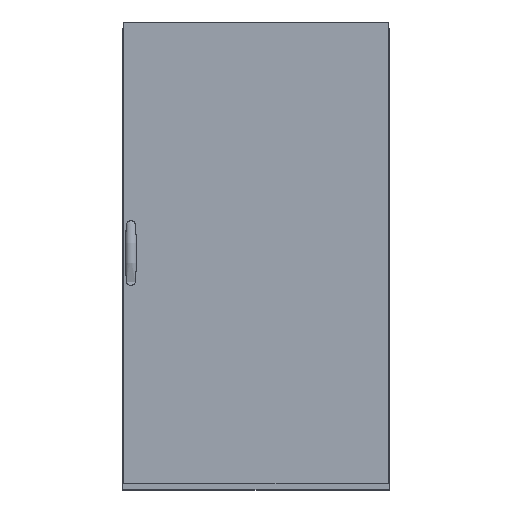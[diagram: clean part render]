
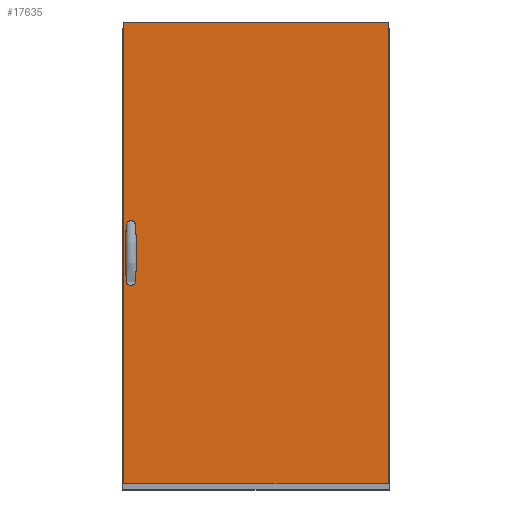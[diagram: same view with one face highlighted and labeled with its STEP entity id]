
A CAD part, top view. The second image highlights one B-rep face of the part: STEP entity #17635.
In plain terms, the highlighted planar face has unit normal (0, 0, 1) as drawn and (0, 0, -1) by its records, which use the part's own axes.
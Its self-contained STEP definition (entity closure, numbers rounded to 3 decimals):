
#275=CIRCLE('',#19622,2.6);
#276=CIRCLE('',#19623,2.6);
#2351=ORIENTED_EDGE('',*,*,#6413,.T.);
#2352=ORIENTED_EDGE('',*,*,#6414,.T.);
#2353=ORIENTED_EDGE('',*,*,#6415,.T.);
#2354=ORIENTED_EDGE('',*,*,#6416,.T.);
#2355=ORIENTED_EDGE('',*,*,#6417,.T.);
#2356=ORIENTED_EDGE('',*,*,#6418,.T.);
#2357=ORIENTED_EDGE('',*,*,#6419,.T.);
#2358=ORIENTED_EDGE('',*,*,#6420,.T.);
#2359=ORIENTED_EDGE('',*,*,#6421,.T.);
#2360=ORIENTED_EDGE('',*,*,#6422,.T.);
#2361=ORIENTED_EDGE('',*,*,#6423,.T.);
#2362=ORIENTED_EDGE('',*,*,#6424,.T.);
#2363=ORIENTED_EDGE('',*,*,#6425,.T.);
#2364=ORIENTED_EDGE('',*,*,#6426,.T.);
#2365=ORIENTED_EDGE('',*,*,#6427,.T.);
#2366=ORIENTED_EDGE('',*,*,#6428,.T.);
#2367=ORIENTED_EDGE('',*,*,#6429,.T.);
#2368=ORIENTED_EDGE('',*,*,#6430,.F.);
#2369=ORIENTED_EDGE('',*,*,#6431,.F.);
#2370=ORIENTED_EDGE('',*,*,#6432,.T.);
#2371=ORIENTED_EDGE('',*,*,#6433,.T.);
#2372=ORIENTED_EDGE('',*,*,#6434,.T.);
#6413=EDGE_CURVE('',#8598,#8599,#10440,.T.);
#6414=EDGE_CURVE('',#8599,#8600,#10441,.T.);
#6415=EDGE_CURVE('',#8600,#8601,#10442,.T.);
#6416=EDGE_CURVE('',#8601,#8602,#10443,.T.);
#6417=EDGE_CURVE('',#8602,#8603,#10444,.T.);
#6418=EDGE_CURVE('',#8603,#8604,#10445,.T.);
#6419=EDGE_CURVE('',#8604,#8605,#10446,.T.);
#6420=EDGE_CURVE('',#8605,#8606,#10447,.T.);
#6421=EDGE_CURVE('',#8606,#8607,#10448,.T.);
#6422=EDGE_CURVE('',#8607,#8608,#10449,.T.);
#6423=EDGE_CURVE('',#8608,#8609,#10450,.T.);
#6424=EDGE_CURVE('',#8609,#8610,#10451,.T.);
#6425=EDGE_CURVE('',#8610,#8611,#10452,.T.);
#6426=EDGE_CURVE('',#8611,#8612,#10453,.T.);
#6427=EDGE_CURVE('',#8612,#8613,#10454,.T.);
#6428=EDGE_CURVE('',#8613,#8598,#10455,.T.);
#6429=EDGE_CURVE('',#8614,#8615,#10456,.T.);
#6430=EDGE_CURVE('',#8616,#8615,#10457,.T.);
#6431=EDGE_CURVE('',#8617,#8616,#10458,.T.);
#6432=EDGE_CURVE('',#8617,#8614,#10459,.T.);
#6433=EDGE_CURVE('',#8618,#8618,#275,.T.);
#6434=EDGE_CURVE('',#8619,#8619,#276,.T.);
#8598=VERTEX_POINT('',#27115);
#8599=VERTEX_POINT('',#27116);
#8600=VERTEX_POINT('',#27118);
#8601=VERTEX_POINT('',#27120);
#8602=VERTEX_POINT('',#27122);
#8603=VERTEX_POINT('',#27124);
#8604=VERTEX_POINT('',#27126);
#8605=VERTEX_POINT('',#27128);
#8606=VERTEX_POINT('',#27130);
#8607=VERTEX_POINT('',#27132);
#8608=VERTEX_POINT('',#27134);
#8609=VERTEX_POINT('',#27136);
#8610=VERTEX_POINT('',#27138);
#8611=VERTEX_POINT('',#27140);
#8612=VERTEX_POINT('',#27142);
#8613=VERTEX_POINT('',#27144);
#8614=VERTEX_POINT('',#27147);
#8615=VERTEX_POINT('',#27148);
#8616=VERTEX_POINT('',#27150);
#8617=VERTEX_POINT('',#27152);
#8618=VERTEX_POINT('',#27155);
#8619=VERTEX_POINT('',#27157);
#10440=LINE('',#27114,#12620);
#10441=LINE('',#27117,#12621);
#10442=LINE('',#27119,#12622);
#10443=LINE('',#27121,#12623);
#10444=LINE('',#27123,#12624);
#10445=LINE('',#27125,#12625);
#10446=LINE('',#27127,#12626);
#10447=LINE('',#27129,#12627);
#10448=LINE('',#27131,#12628);
#10449=LINE('',#27133,#12629);
#10450=LINE('',#27135,#12630);
#10451=LINE('',#27137,#12631);
#10452=LINE('',#27139,#12632);
#10453=LINE('',#27141,#12633);
#10454=LINE('',#27143,#12634);
#10455=LINE('',#27145,#12635);
#10456=LINE('',#27146,#12636);
#10457=LINE('',#27149,#12637);
#10458=LINE('',#27151,#12638);
#10459=LINE('',#27153,#12639);
#12620=VECTOR('',#22164,1000.);
#12621=VECTOR('',#22165,1000.);
#12622=VECTOR('',#22166,1000.);
#12623=VECTOR('',#22167,1000.);
#12624=VECTOR('',#22168,1000.);
#12625=VECTOR('',#22169,1000.);
#12626=VECTOR('',#22170,1000.);
#12627=VECTOR('',#22171,1000.);
#12628=VECTOR('',#22172,1000.);
#12629=VECTOR('',#22173,1000.);
#12630=VECTOR('',#22174,1000.);
#12631=VECTOR('',#22175,1000.);
#12632=VECTOR('',#22176,1000.);
#12633=VECTOR('',#22177,1000.);
#12634=VECTOR('',#22178,1000.);
#12635=VECTOR('',#22179,1000.);
#12636=VECTOR('',#22180,1000.);
#12637=VECTOR('',#22181,1000.);
#12638=VECTOR('',#22182,1000.);
#12639=VECTOR('',#22183,1000.);
#14513=EDGE_LOOP('',(#2351,#2352,#2353,#2354,#2355,#2356,#2357,#2358,#2359,
#2360,#2361,#2362,#2363,#2364,#2365,#2366));
#14514=EDGE_LOOP('',(#2367,#2368,#2369,#2370));
#14515=EDGE_LOOP('',(#2371));
#14516=EDGE_LOOP('',(#2372));
#15711=FACE_BOUND('',#14513,.T.);
#15712=FACE_BOUND('',#14514,.T.);
#15713=FACE_BOUND('',#14515,.T.);
#15714=FACE_BOUND('',#14516,.T.);
#16739=PLANE('',#19621);
#17635=ADVANCED_FACE('',(#15711,#15712,#15713,#15714),#16739,.F.);
#19621=AXIS2_PLACEMENT_3D('',#27113,#22162,#22163);
#19622=AXIS2_PLACEMENT_3D('',#27154,#22184,#22185);
#19623=AXIS2_PLACEMENT_3D('',#27156,#22186,#22187);
#22162=DIRECTION('',(0.,0.,1.));
#22163=DIRECTION('',(1.,0.,0.));
#22164=DIRECTION('',(0.,-1.,0.));
#22165=DIRECTION('',(0.342,-0.94,0.));
#22166=DIRECTION('',(1.,0.,0.));
#22167=DIRECTION('',(0.,1.,0.));
#22168=DIRECTION('',(1.,0.,0.));
#22169=DIRECTION('',(0.,-1.,0.));
#22170=DIRECTION('',(1.,0.,0.));
#22171=DIRECTION('',(0.342,0.94,0.));
#22172=DIRECTION('',(0.,1.,0.));
#22173=DIRECTION('',(-0.342,0.94,0.));
#22174=DIRECTION('',(-1.,0.,0.));
#22175=DIRECTION('',(0.,-1.,0.));
#22176=DIRECTION('',(-1.,0.,0.));
#22177=DIRECTION('',(0.,1.,0.));
#22178=DIRECTION('',(-1.,0.,0.));
#22179=DIRECTION('',(-0.342,-0.94,0.));
#22180=DIRECTION('',(-1.,0.,0.));
#22181=DIRECTION('',(0.,-1.,0.));
#22182=DIRECTION('',(-1.,0.,0.));
#22183=DIRECTION('',(0.,-1.,0.));
#22184=DIRECTION('',(0.,0.,1.));
#22185=DIRECTION('',(1.,0.,0.));
#22186=DIRECTION('',(0.,0.,1.));
#22187=DIRECTION('',(1.,0.,0.));
#27113=CARTESIAN_POINT('',(396.5,1382.,-16.8));
#27114=CARTESIAN_POINT('',(362.95,756.256,-16.8));
#27115=CARTESIAN_POINT('',(362.95,756.256,-16.8));
#27116=CARTESIAN_POINT('',(362.95,625.744,-16.8));
#27117=CARTESIAN_POINT('',(362.95,625.744,-16.8));
#27118=CARTESIAN_POINT('',(364.95,620.25,-16.8));
#27119=CARTESIAN_POINT('',(364.95,620.25,-16.8));
#27120=CARTESIAN_POINT('',(370.2,620.25,-16.8));
#27121=CARTESIAN_POINT('',(370.2,620.25,-16.8));
#27122=CARTESIAN_POINT('',(370.2,628.,-16.8));
#27123=CARTESIAN_POINT('',(370.2,628.,-16.8));
#27124=CARTESIAN_POINT('',(381.2,628.,-16.8));
#27125=CARTESIAN_POINT('',(381.2,628.,-16.8));
#27126=CARTESIAN_POINT('',(381.2,620.25,-16.8));
#27127=CARTESIAN_POINT('',(381.2,620.25,-16.8));
#27128=CARTESIAN_POINT('',(386.45,620.25,-16.8));
#27129=CARTESIAN_POINT('',(386.45,620.25,-16.8));
#27130=CARTESIAN_POINT('',(388.45,625.744,-16.8));
#27131=CARTESIAN_POINT('',(388.45,625.744,-16.8));
#27132=CARTESIAN_POINT('',(388.45,756.256,-16.8));
#27133=CARTESIAN_POINT('',(388.45,756.256,-16.8));
#27134=CARTESIAN_POINT('',(386.45,761.75,-16.8));
#27135=CARTESIAN_POINT('',(386.45,761.75,-16.8));
#27136=CARTESIAN_POINT('',(381.2,761.75,-16.8));
#27137=CARTESIAN_POINT('',(381.2,761.75,-16.8));
#27138=CARTESIAN_POINT('',(381.2,754.,-16.8));
#27139=CARTESIAN_POINT('',(381.2,754.,-16.8));
#27140=CARTESIAN_POINT('',(370.2,754.,-16.8));
#27141=CARTESIAN_POINT('',(370.2,754.,-16.8));
#27142=CARTESIAN_POINT('',(370.2,761.75,-16.8));
#27143=CARTESIAN_POINT('',(370.2,761.75,-16.8));
#27144=CARTESIAN_POINT('',(364.95,761.75,-16.8));
#27145=CARTESIAN_POINT('',(364.95,761.75,-16.8));
#27146=CARTESIAN_POINT('',(396.5,0.,-16.8));
#27147=CARTESIAN_POINT('',(396.5,0.,-16.8));
#27148=CARTESIAN_POINT('',(-396.5,0.,-16.8));
#27149=CARTESIAN_POINT('',(-396.5,1382.,-16.8));
#27150=CARTESIAN_POINT('',(-396.5,1382.,-16.8));
#27151=CARTESIAN_POINT('',(396.5,1382.,-16.8));
#27152=CARTESIAN_POINT('',(396.5,1382.,-16.8));
#27153=CARTESIAN_POINT('',(396.5,1382.,-16.8));
#27154=CARTESIAN_POINT('',(375.7,761.,-16.8));
#27155=CARTESIAN_POINT('',(378.3,761.,-16.8));
#27156=CARTESIAN_POINT('',(375.7,621.,-16.8));
#27157=CARTESIAN_POINT('',(378.3,621.,-16.8));
